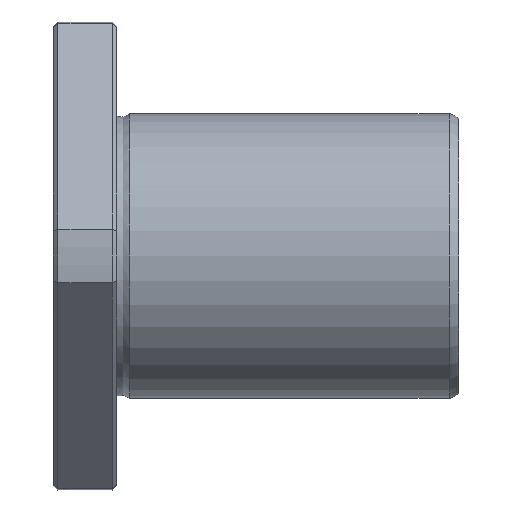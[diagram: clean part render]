
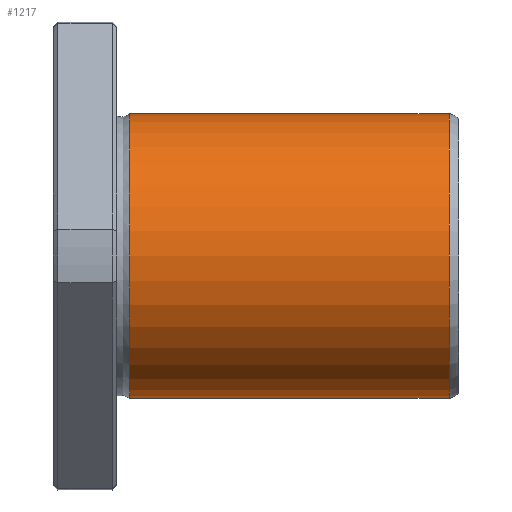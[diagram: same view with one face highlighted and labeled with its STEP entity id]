
A CAD part, front view. The second image highlights one B-rep face of the part: STEP entity #1217.
In plain terms, the highlighted cylindrical face has radius 22.5 mm (diameter 45 mm), a full revolution.
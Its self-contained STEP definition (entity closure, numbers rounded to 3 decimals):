
#1183=CARTESIAN_POINT('',(62.502,0.0,22.5));
#1184=VERTEX_POINT('',#1183);
#1185=CARTESIAN_POINT('',(62.502,0.0,0.0));
#1186=DIRECTION('',(-1.0,0.0,0.0));
#1187=DIRECTION('',(0.0,0.0,1.0));
#1188=AXIS2_PLACEMENT_3D('',#1185,#1186,#1187);
#1189=CIRCLE('',#1188,22.5);
#1190=EDGE_CURVE('',#1184,#1184,#1189,.T.);
#1198=CARTESIAN_POINT('',(37.262,0.0,0.0));
#1199=DIRECTION('',(-1.0,0.0,0.0));
#1200=DIRECTION('',(0.0,0.0,1.0));
#1201=AXIS2_PLACEMENT_3D('',#1198,#1199,#1200);
#1202=CYLINDRICAL_SURFACE('',#1201,22.5);
#1203=CARTESIAN_POINT('',(12.023,0.0,22.5));
#1204=VERTEX_POINT('',#1203);
#1205=CARTESIAN_POINT('',(12.023,0.0,0.0));
#1206=DIRECTION('',(-1.0,0.0,0.0));
#1207=DIRECTION('',(0.0,0.0,1.0));
#1208=AXIS2_PLACEMENT_3D('',#1205,#1206,#1207);
#1209=CIRCLE('',#1208,22.5);
#1210=EDGE_CURVE('',#1204,#1204,#1209,.T.);
#1211=ORIENTED_EDGE('',*,*,#1210,.F.);
#1212=EDGE_LOOP('',(#1211));
#1213=FACE_OUTER_BOUND('',#1212,.T.);
#1214=ORIENTED_EDGE('',*,*,#1190,.T.);
#1215=EDGE_LOOP('',(#1214));
#1216=FACE_BOUND('',#1215,.T.);
#1217=ADVANCED_FACE('',(#1213,#1216),#1202,.T.);
